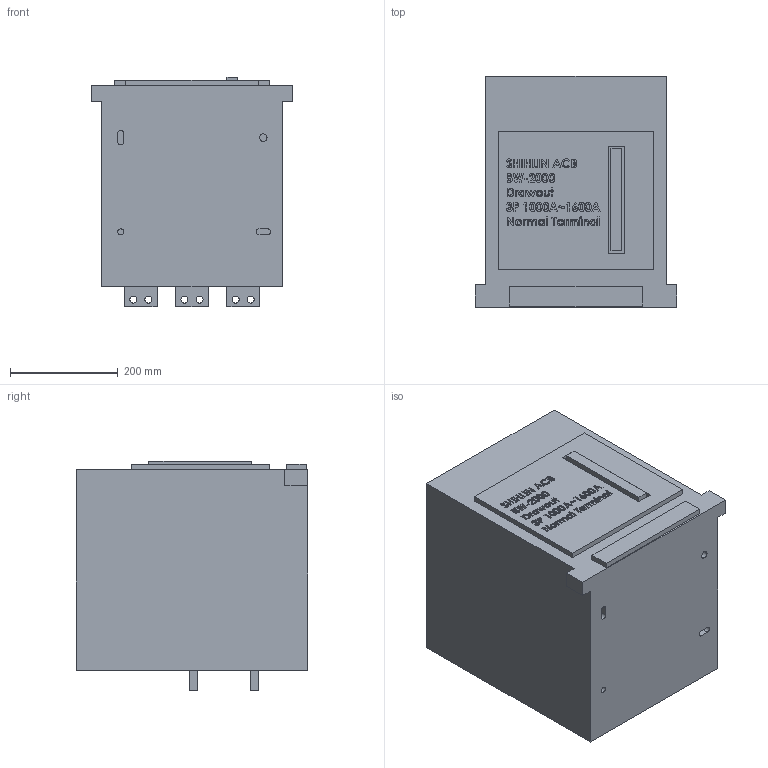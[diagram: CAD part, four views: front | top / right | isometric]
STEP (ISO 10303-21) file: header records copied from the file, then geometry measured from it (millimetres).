
FILE_DESCRIPTION (( 'STEP AP203' ), '1' );
FILE_NAME ('BW-2000-Drawout-3P-1000-1600A-Normal Terminal.STEP', '2016-11-03T01:05:22', ( '' ), ( '' ), 'SwSTEP 2.0', 'SolidWorks 2015', '' );
FILE_SCHEMA (( 'CONFIG_CONTROL_DESIGN' ));
Length unit declared in the file: millimetre
Products named in the file (1): BW-2000-Drawout-3P-1000-1600A-Normal Terminal
Bounding box: 375 x 430 x 426 mm (x, y, z)
Volume: 54812256.6 mm3; surface area: 965137.6 mm2
Topology: 1 solids, 1 shells, 733 faces, 1923 edges, 1282 vertices
Faces by surface type: plane 437, bspline 263, cylinder 33
Entity records: 36882 total; most frequent: CARTESIAN_POINT 20394, ORIENTED_EDGE 3846, DIRECTION 2405, EDGE_CURVE 1923, LINE 1331, VECTOR 1331, VERTEX_POINT 1282, EDGE_LOOP 847
